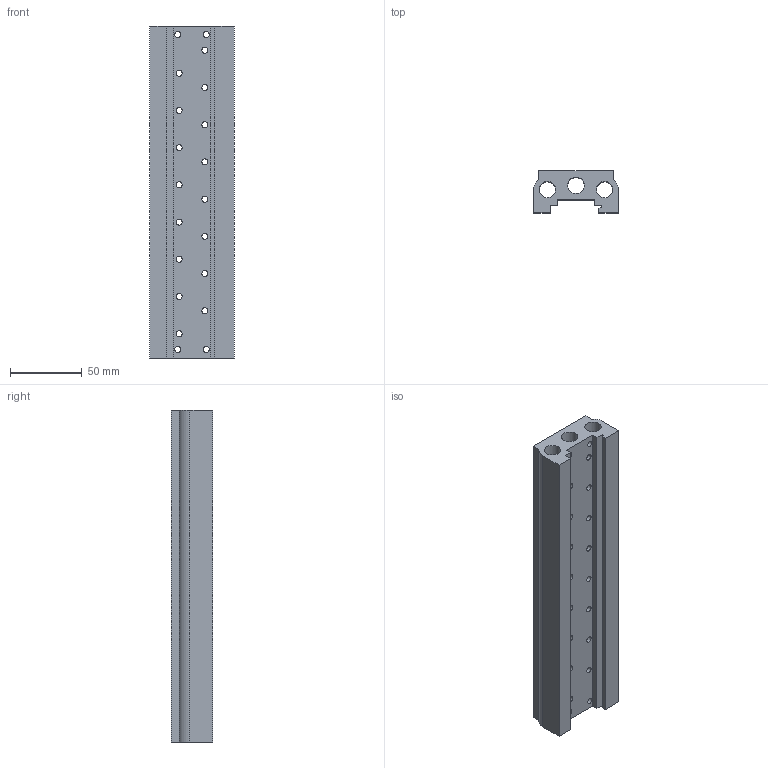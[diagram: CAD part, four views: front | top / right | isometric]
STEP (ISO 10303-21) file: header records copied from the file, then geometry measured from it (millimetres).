
FILE_DESCRIPTION((''),'2;1');
FILE_NAME('K:\A-Roberto\_Inventor\Rev.Librerie\TECNOECO\T488_ ##\T488_ 08.stp','2006-10-06T08:55:35',('rivolro1'),(''),'Autodesk Inventor 11','Autodesk Inventor 11','');
FILE_SCHEMA(('AUTOMOTIVE_DESIGN { 1 0 10303 214 1 1 1 1 }'));
Length unit declared in the file: millimetre
Products named in the file (1): T488_ 08
Bounding box: 59 x 29 x 232 mm (x, y, z)
Volume: 231428.2 mm3; surface area: 80588.1 mm2
Topology: 1 solids, 1 shells, 187 faces, 431 edges, 282 vertices
Faces by surface type: bspline 164, plane 18, cylinder 5
Full cylindrical faces by diameter (mm): 11.5 x3
Entity records: 8069 total; most frequent: CARTESIAN_POINT 4784, ORIENTED_EDGE 568, DIRECTION 486, EDGE_LOOP 432, EDGE_CURVE 284, VERTEX_POINT 250, FACE_BOUND 245, AXIS2_PLACEMENT_3D 218
